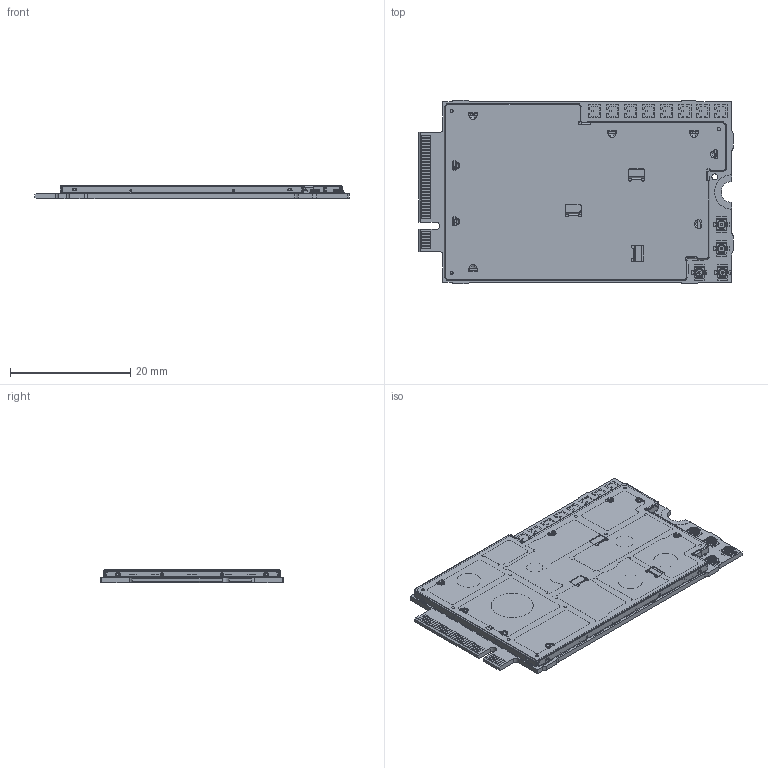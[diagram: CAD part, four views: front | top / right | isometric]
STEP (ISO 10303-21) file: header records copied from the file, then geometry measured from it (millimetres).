
FILE_DESCRIPTION((''),'2;1');
FILE_NAME('5304242_EM9190_PCA_CS_ASM','2023-07-05T15:23:17',('awicikowski'),(''),'CREO PARAMETRIC BY PTC INC, 2022124','CREO PARAMETRIC BY PTC INC, 2022124','');
FILE_SCHEMA(('CONFIG_CONTROL_DESIGN','SHAPE_APPEARANCE_LAYERS_GROUPS'));
Products named in the file (95): EM9190_5306361; 3017083; 3017246; 3016829; 3016895; 3016815; 3017082; 3017080; 3016797; 3500126; 3017376; 3016821; 3016918; 3016779; 3017266; 3401186; 3016373; 3016041; 3016038; 3016034; 3016035; 3016070; 3016072; 3016071; 3016067; 3016066; 3016068; 3016277; 3015377; 3015502; 3015462; 3015469; 3015380; 3015493; 3015398; 3015478; 3015446; 3015414; 3015423; 3017372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
Assembly tree (454 placements, depth 2):
  5304242_EM9190_PCA_CS_ASM
    EM9190_5306361
    3017083
    3017246
    3016829  x3
    3016895
    3016815  x2
    3017082
    3017080
    3016797  x2
    3500126  x2
    3017376
    3016821  x4
    3016918  x2
    3016779
    3017266  x6
    3401186  x2
    3016373
    3016041
    3016038
    3016034  x2
    3016035
    3016070
    3016072
    3016071
    3016067
    3016066
    3016068
    3016277
    3015377  x43
    3015502  x4
    3015462  x8
    3015469  x2
    3015380  x5
    3015493
    3015398  x5
    3015478
    3015446  x3
    3015414
    3015423  x3
    3017372
    3016420
    3017373  x2
    3016008
    3016022  x8
    3016025  x37
    3016011
    3015993  x77
    3016021
    3016864  x19
    3015367  x18
    3100635  x43
    3015987
    3300465  x3
    3016233
    3017234
    3017079
    3016332  x2
    3017097  x2
    3017084  x3
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Bounding box: 52.25 x 30.5 x 2.17 mm (x, y, z)
Volume: 2062.6 mm3; surface area: 10961.9 mm2
Topology: 455 solids, 464 shells, 6054 faces, 14288 edges, 9360 vertices
Faces by surface type: plane 5051, cylinder 807, sphere 72, bspline 68, cone 40, torus 16
Entity records: 141017 total; most frequent: CARTESIAN_POINT 23352, DIRECTION 19204, ORIENTED_EDGE 18655, EDGE_CURVE 9353, VECTOR 7474, LINE 7474, PRESENTATION_STYLE_ASSIGNMENT 6194, VERTEX_POINT 6081
